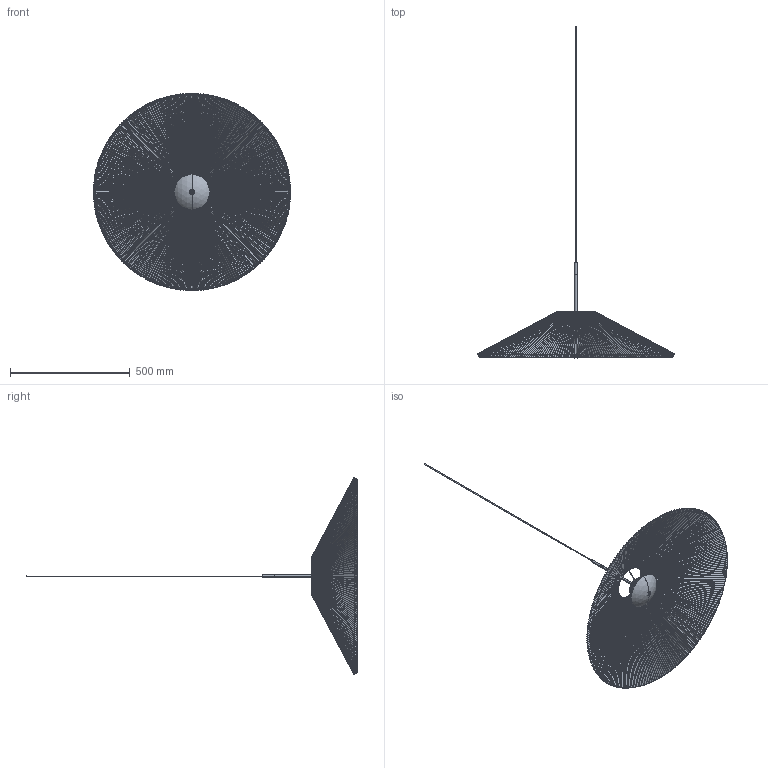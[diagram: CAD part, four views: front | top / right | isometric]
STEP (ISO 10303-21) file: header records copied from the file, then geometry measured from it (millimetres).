
FILE_DESCRIPTION (( 'STEP AP214' ), '1' );
FILE_NAME ('Nebra Large.STEP', '2024-01-24T11:54:22', ( '' ), ( '' ), 'SwSTEP 2.0', 'SolidWorks 2023', '' );
FILE_SCHEMA (( 'AUTOMOTIVE_DESIGN' ));
Length unit declared in the file: millimetre
Products named in the file (3): Pendant fitting; Nebra Large; Pendant Shade Large
Assembly tree (2 placements, depth 2):
  Nebra Large
    Pendant Shade Large
    Pendant fitting
Bounding box: 824.98 x 1387.42 x 824.92 mm (x, y, z)
Volume: 841936.9 mm3; surface area: 8663495.3 mm2
Topology: 265 solids, 265 shells, 5149 faces, 12427 edges, 8067 vertices
Faces by surface type: bspline 2330, plane 2039, cylinder 406, torus 150, cone 128, sphere 96
Entity records: 276466 total; most frequent: CARTESIAN_POINT 173594, ORIENTED_EDGE 24854, EDGE_CURVE 12427, DIRECTION 12378, VERTEX_POINT 8067, B_SPLINE_CURVE_WITH_KNOTS 6700, EDGE_LOOP 5446, FACE_OUTER_BOUND 5149
